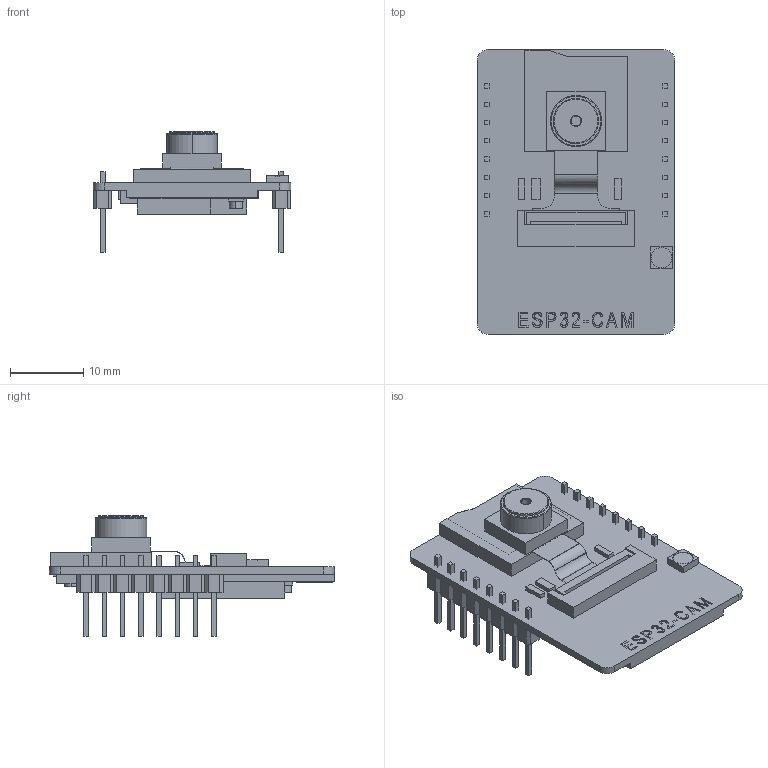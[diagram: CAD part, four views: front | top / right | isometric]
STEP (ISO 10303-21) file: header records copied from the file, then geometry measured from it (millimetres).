
FILE_DESCRIPTION(('CATIA V5 STEP Exchange'),'2;1');
FILE_NAME('X:\XDrive\Homepage\homes\techecke\arduino\downloads\ESP32-CAM.stp','2024-11-21T16:40:31+00:00',('none'),('none'),'CATIA Version 5 Release 19 SP 2 (IN-10)','CATIA V5 STEP AP203','none');
FILE_SCHEMA(('CONFIG_CONTROL_DESIGN'));
Length unit declared in the file: millimetre
Products named in the file (1): ESP32-CAM
Bounding box: 27 x 39 x 16.5 mm (x, y, z)
Volume: 2984.5 mm3; surface area: 4584.4 mm2
Topology: 41 solids, 41 shells, 685 faces, 1716 edges, 1138 vertices
Faces by surface type: plane 600, bspline 51, cylinder 28, torus 6
Entity records: 41853 total; most frequent: CARTESIAN_POINT 26794, ORIENTED_EDGE 3432, DIRECTION 2350, EDGE_CURVE 1716, VECTOR 1488, LINE 1488, VERTEX_POINT 1138, EDGE_LOOP 746
